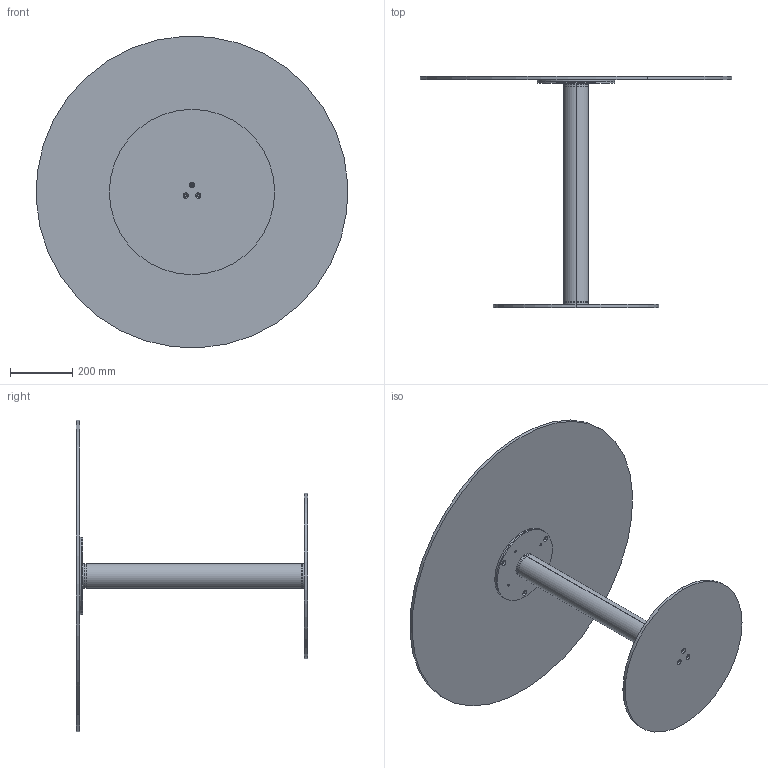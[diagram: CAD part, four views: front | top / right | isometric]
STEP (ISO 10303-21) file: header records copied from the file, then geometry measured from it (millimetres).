
FILE_DESCRIPTION (( 'STEP AP203' ), '1' );
FILE_NAME ('CB35G.STEP', '2024-08-08T08:25:25', ( '' ), ( '' ), 'SwSTEP 2.0', 'SolidWorks 2022', '' );
FILE_SCHEMA (( 'CONFIG_CONTROL_DESIGN' ));
Length unit declared in the file: millimetre
Products named in the file (7): CBS000000BAS-00-BISTRO PIASTRA INFERIORE_D.530; CBS000000COL-00-CILINDRO BISTRO COLONNA H75; CXXCRXX-00-Piani Rotondi in Cristallo CON PIASTRA_C03P PIANO CRISTALLO D.100cm; C1XCRMXX-00-piani Rotondi Cristallo_C03 D.100cm; CB35G; P0000003-00-STAFFA DI FISSAGGIO DIAMETRO 250_P0000003-250mm normale; CBS200000PST-00-CONTROPIASTRA PER PIASTRA D.25cm GREZZO_250
Assembly tree (6 placements, depth 3):
  CB35G
    CBS000000BAS-00-BISTRO PIASTRA INFERIORE_D.530
    CBS200000PST-00-CONTROPIASTRA PER PIASTRA D.25cm GREZZO_250
    CBS000000COL-00-CILINDRO BISTRO COLONNA H75
    CXXCRXX-00-Piani Rotondi in Cristallo CON PIASTRA_C03P PIANO CRISTALLO D.100cm
      C1XCRMXX-00-piani Rotondi Cristallo_C03 D.100cm
      P0000003-00-STAFFA DI FISSAGGIO DIAMETRO 250_P0000003-250mm normale
Bounding box: 998.81 x 741 x 998.81 mm (x, y, z)
Volume: 10983292.2 mm3; surface area: 2635196.3 mm2
Topology: 7 solids, 7 shells, 104 faces, 244 edges, 154 vertices
Faces by surface type: cylinder 64, cone 26, plane 14
Entity records: 3875 total; most frequent: DIRECTION 626, CARTESIAN_POINT 512, ORIENTED_EDGE 488, AXIS2_PLACEMENT_3D 268, EDGE_CURVE 244, CIRCLE 154, VERTEX_POINT 154, EDGE_LOOP 154
